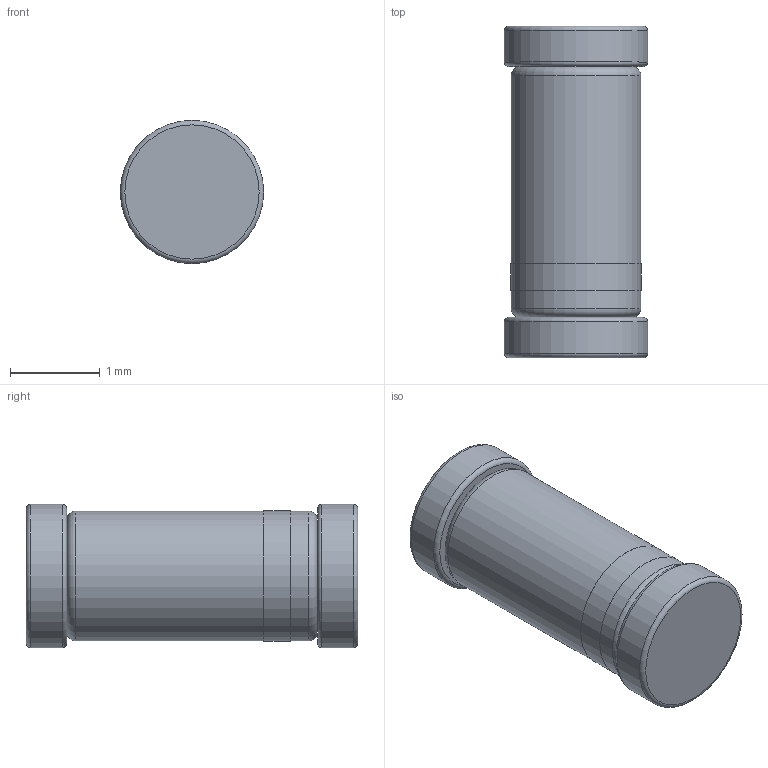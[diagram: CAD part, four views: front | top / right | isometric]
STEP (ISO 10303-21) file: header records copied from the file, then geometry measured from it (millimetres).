
FILE_DESCRIPTION(/* description */ ('STEP AP242 Edition 2','CAx-IF Rec.Pracs.---Representation and Presentation of Product Manufacturing Information (PMI)---4.0---2014-10-13','CAx-IF Rec.Pracs.---3D Tessellated Geometry---0.4---2014-09-14','2;1','CAx-IF Rec.Pracs.---User Defined Attributes---1.5---2016-08-15'),/* implementation_level */ '2;1');
FILE_NAME(/* name */ 'Assembly 1 - LL-34_L3.5-W1.5-R-RD~LL-34_L3.7-W1.6~nxQB',/* time_stamp */ '2026-04-02T09:55:16Z',/* author */ (''),/* organization */ (''),/* preprocessor_version */ 'ST-DEVELOPER v20',/* originating_system */ 'ONSHAPE BY PTC INC, 1.212',/* authorisation */ ' ');
FILE_SCHEMA (('AP242_MANAGED_MODEL_BASED_3D_ENGINEERING_MIM_LF { 1 0 10303 442 3 1 4 }'));
Length unit declared in the file: metre
Products named in the file (1): LL-34_L3.5-W1.5-R-RD~LL-34_L3.7-W1.6~nxQB
Bounding box: 1.6 x 3.7 x 1.6 mm (x, y, z)
Volume: 6.4 mm3; surface area: 22.9 mm2
Topology: 1 solids, 1 shells, 243 faces, 620 edges, 402 vertices
Faces by surface type: plane 135, cylinder 66, bspline 36, torus 6
Full cylindrical faces by diameter (mm): 1.25 x2, 1.45 x2, 1.452 x1, 1.6 x2
Entity records: 9149 total; most frequent: CARTESIAN_POINT 1794, ORIENTED_EDGE 1206, DIRECTION 1058, EDGE_CURVE 603, VERTEX_POINT 398, LINE 366, VECTOR 366, AXIS2_PLACEMENT_3D 346
